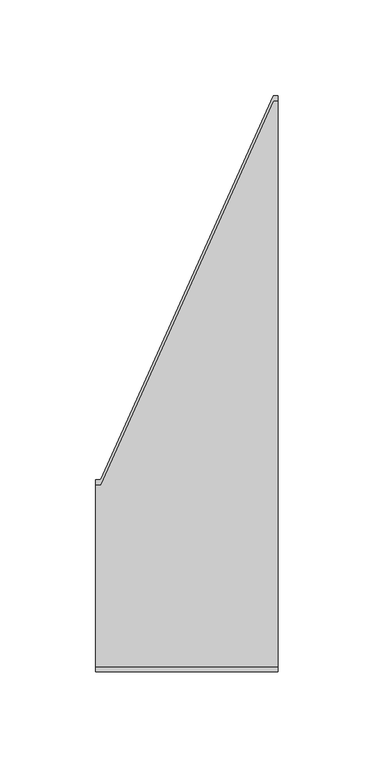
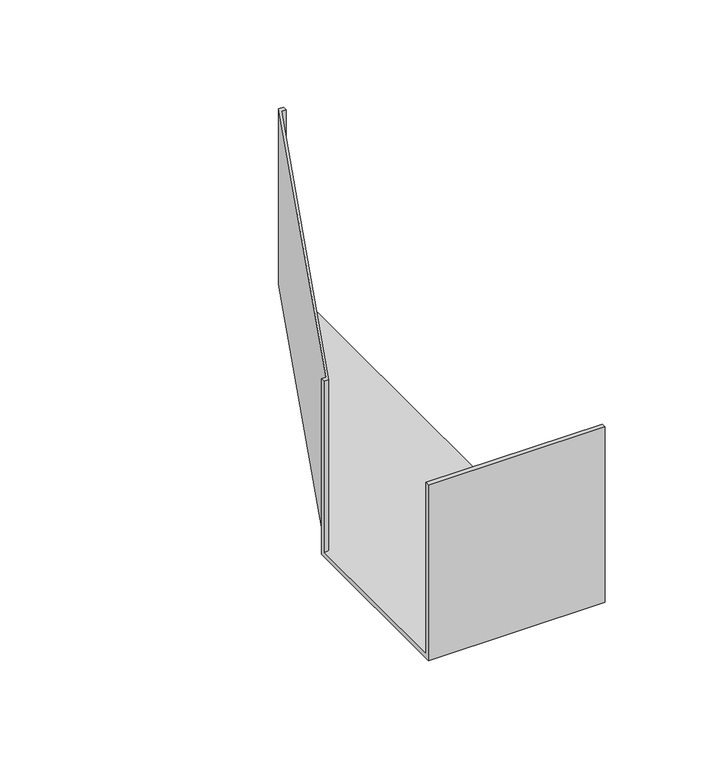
"""IFC4 building model written with IfcOpenShell, lengths in millimetres: cable carrier fitting geometry, BAKS_Reducer : RK(S/L/P)J_H100."""

from ifc_helpers import new_model, si_unit, origin, place, context, project, spatial, faceted_brep, source, transform, mapped, element, save


def cable_carrier_fitting_b7b75895(model_context):
    return source(origin(), model_context, "Body", "Brep", [
        faceted_brep([(0.0, -50.0, -50.0), (0.0, -50.0, 50.0), (0.0, -47.46, 50.0), (0.0, -47.46, -47.46), (0.0, 47.46, -47.46), (0.0, 47.46, 50.0), (0.0, 50.0, 50.0), (0.0, 50.0, -50.0), (95.0, -50.0, -50.0), (95.0, 250.0, -50.0), (95.0, 250.0, 50.0), (95.0, 247.46, 50.0), (95.0, 247.46, -47.46), (95.0, -47.46, -47.46), (95.0, -47.46, 50.0), (95.0, -50.0, 50.0), (92.5, 247.46, -47.46), (2.5, 47.46, -47.46), (2.5, 47.46, 50.0), (92.5, 247.46, 50.0), (92.5, 250.0, 50.0), (2.5, 50.0, 50.0), (2.5, 50.0, -50.0), (92.5, 250.0, -50.0)], [[[0, 1, 2, 3, 4, 5, 6, 7]], [[8, 9, 10, 11, 12, 13, 14, 15]], [[1, 0, 8, 15]], [[2, 1, 15, 14]], [[3, 2, 14, 13]], [[4, 3, 13, 12, 16, 17]], [[5, 4, 17, 18]], [[6, 5, 18, 19, 11, 10, 20, 21]], [[7, 6, 21, 22]], [[8, 0, 7, 22, 23, 9]], [[12, 11, 19, 16]], [[10, 9, 23, 20]], [[23, 22, 21, 20]], [[19, 18, 17, 16]]]),
    ])


if __name__ == "__main__":
    model = new_model("IFC4")
    model_context = context("Model", 3, world=origin())
    ifc_project = project(units=[si_unit("LENGTHUNIT", "METRE", prefix="MILLI")], contexts=[model_context])
    site = spatial("IfcSite", under=ifc_project)
    building = spatial("IfcBuilding", under=site)
    placement = place(None, origin())
    cable_carrier_fitting_shape = cable_carrier_fitting_b7b75895(model_context)
    element("IfcCableCarrierFitting", 1, ObjectType="BAKS_Reducer : RK(S/L/P)J_H100", at=placement, inside=building, context=model_context, shape_type="MappedRepresentation", body=[
        mapped(cable_carrier_fitting_shape, transform((0.0, 0.0, 0.0), x_axis=(1.0, 0.0, 0.0), y_axis=(0.0, 1.0, 0.0), z_axis=(0.0, 0.0, 1.0))),
    ])
    save(model, "model.ifc")
